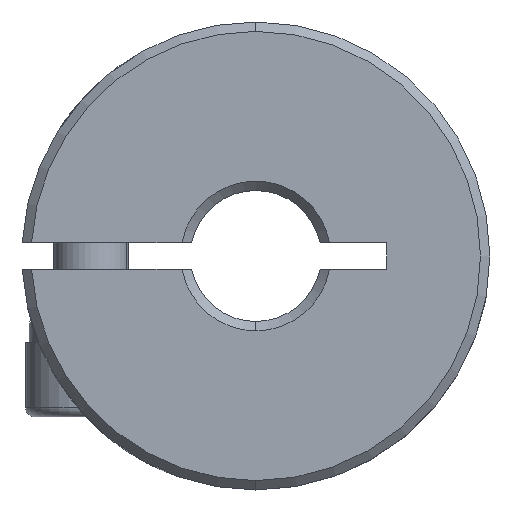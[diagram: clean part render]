
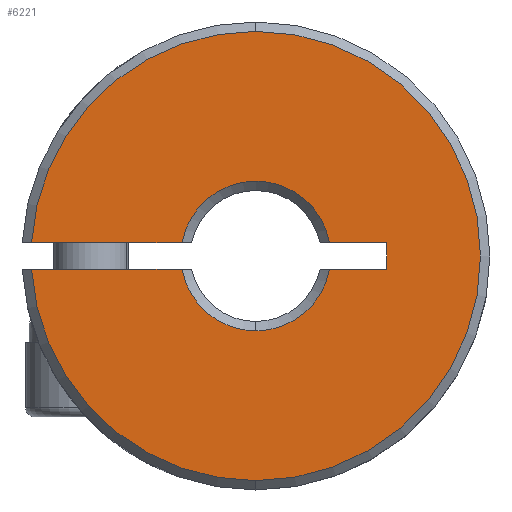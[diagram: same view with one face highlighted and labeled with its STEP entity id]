
A CAD part, front view. The second image highlights one B-rep face of the part: STEP entity #6221.
In plain terms, the highlighted planar face has unit normal (0, -1, 0).
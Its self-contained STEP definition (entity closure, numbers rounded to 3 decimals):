
#20 = AXIS2_PLACEMENT_3D ( 'NONE', #3630, #284, #4590 ) ;
#29 = AXIS2_PLACEMENT_3D ( 'NONE', #4241, #1341, #4716 ) ;
#43 = VERTEX_POINT ( 'NONE', #2971 ) ;
#74 = VECTOR ( 'NONE', #520, 1000. ) ;
#137 = DIRECTION ( 'NONE',  ( 0., -1., 0. ) ) ;
#237 = CARTESIAN_POINT ( 'NONE',  ( 0., 0.25, -12. ) ) ;
#263 = EDGE_CURVE ( 'NONE', #43, #2167, #4797, .T. ) ;
#284 = DIRECTION ( 'NONE',  ( 0., -1., 0. ) ) ;
#343 = VECTOR ( 'NONE', #4923, 1000. ) ;
#438 = DIRECTION ( 'NONE',  ( 0., -1., 0. ) ) ;
#490 = ORIENTED_EDGE ( 'NONE', *, *, #3629, .F. ) ;
#520 = DIRECTION ( 'NONE',  ( -1., 0., 0. ) ) ;
#778 = CARTESIAN_POINT ( 'NONE',  ( 0., 0.25, 12. ) ) ;
#802 = LINE ( 'NONE', #3187, #6119 ) ;
#897 = VERTEX_POINT ( 'NONE', #5147 ) ;
#928 = ORIENTED_EDGE ( 'NONE', *, *, #5864, .T. ) ;
#940 = CARTESIAN_POINT ( 'NONE',  ( 0., 0.25, -4. ) ) ;
#1277 = VERTEX_POINT ( 'NONE', #3044 ) ;
#1341 = DIRECTION ( 'NONE',  ( 0., 1., 0. ) ) ;
#1416 = VERTEX_POINT ( 'NONE', #6136 ) ;
#1637 = CARTESIAN_POINT ( 'NONE',  ( 3.938, 0.25, -0.7 ) ) ;
#1638 = VECTOR ( 'NONE', #1688, 1000. ) ;
#1687 = CIRCLE ( 'NONE', #29, 4. ) ;
#1688 = DIRECTION ( 'NONE',  ( 1., 0., 0. ) ) ;
#1737 = ORIENTED_EDGE ( 'NONE', *, *, #3948, .T. ) ;
#1760 = FACE_OUTER_BOUND ( 'NONE', #2696, .T. ) ;
#1969 = CARTESIAN_POINT ( 'NONE',  ( -12.75, 0.25, 0.7 ) ) ;
#2138 = EDGE_CURVE ( 'NONE', #2167, #4225, #4007, .T. ) ;
#2167 = VERTEX_POINT ( 'NONE', #237 ) ;
#2205 = CARTESIAN_POINT ( 'NONE',  ( -3.938, 0.25, -0.7 ) ) ;
#2276 = CIRCLE ( 'NONE', #4458, 4. ) ;
#2311 = VERTEX_POINT ( 'NONE', #6250 ) ;
#2318 = ORIENTED_EDGE ( 'NONE', *, *, #4292, .F. ) ;
#2384 = DIRECTION ( 'NONE',  ( 0., 1., 0. ) ) ;
#2394 = EDGE_CURVE ( 'NONE', #1416, #1277, #2276, .T. ) ;
#2550 = PLANE ( 'NONE',  #4359 ) ;
#2627 = ORIENTED_EDGE ( 'NONE', *, *, #3941, .F. ) ;
#2643 = AXIS2_PLACEMENT_3D ( 'NONE', #3757, #438, #3307 ) ;
#2696 = EDGE_LOOP ( 'NONE', ( #2318, #928, #1737, #490, #3829, #4657, #3888, #5618, #2997, #2627, #4598 ) ) ;
#2971 = CARTESIAN_POINT ( 'NONE',  ( -11.98, 0.25, -0.7 ) ) ;
#2997 = ORIENTED_EDGE ( 'NONE', *, *, #2394, .T. ) ;
#3044 = CARTESIAN_POINT ( 'NONE',  ( 3.938, 0.25, 0.7 ) ) ;
#3187 = CARTESIAN_POINT ( 'NONE',  ( -12.75, 0.25, -0.7 ) ) ;
#3307 = DIRECTION ( 'NONE',  ( 0., 0., 1. ) ) ;
#3480 = CARTESIAN_POINT ( 'NONE',  ( -12.75, 0.25, 0.7 ) ) ;
#3539 = DIRECTION ( 'NONE',  ( 0., 0., 1. ) ) ;
#3582 = DIRECTION ( 'NONE',  ( 0., 0., 1. ) ) ;
#3629 = EDGE_CURVE ( 'NONE', #43, #5111, #4747, .T. ) ;
#3630 = CARTESIAN_POINT ( 'NONE',  ( 0., 0.25, 0. ) ) ;
#3757 = CARTESIAN_POINT ( 'NONE',  ( 0., 0.25, 0. ) ) ;
#3829 = ORIENTED_EDGE ( 'NONE', *, *, #263, .T. ) ;
#3888 = ORIENTED_EDGE ( 'NONE', *, *, #5897, .T. ) ;
#3910 = VERTEX_POINT ( 'NONE', #940 ) ;
#3941 = EDGE_CURVE ( 'NONE', #2311, #1277, #5962, .T. ) ;
#3948 = EDGE_CURVE ( 'NONE', #3910, #5111, #4740, .T. ) ;
#4007 = CIRCLE ( 'NONE', #20, 12. ) ;
#4046 = CARTESIAN_POINT ( 'NONE',  ( -500., 0.25, -13.609 ) ) ;
#4225 = VERTEX_POINT ( 'NONE', #778 ) ;
#4241 = CARTESIAN_POINT ( 'NONE',  ( 0., 0.25, 0. ) ) ;
#4292 = EDGE_CURVE ( 'NONE', #5060, #897, #802, .T. ) ;
#4320 = CARTESIAN_POINT ( 'NONE',  ( 0., 0.25, 0. ) ) ;
#4359 = AXIS2_PLACEMENT_3D ( 'NONE', #4046, #5976, #3539 ) ;
#4458 = AXIS2_PLACEMENT_3D ( 'NONE', #5952, #4542, #3582 ) ;
#4542 = DIRECTION ( 'NONE',  ( 0., 1., 0. ) ) ;
#4567 = DIRECTION ( 'NONE',  ( 0., 0., 1. ) ) ;
#4575 = DIRECTION ( 'NONE',  ( 0., 0., 1. ) ) ;
#4590 = DIRECTION ( 'NONE',  ( 0., 0., 1. ) ) ;
#4598 = ORIENTED_EDGE ( 'NONE', *, *, #5720, .F. ) ;
#4644 = DIRECTION ( 'NONE',  ( 1., 0., 0. ) ) ;
#4657 = ORIENTED_EDGE ( 'NONE', *, *, #2138, .T. ) ;
#4716 = DIRECTION ( 'NONE',  ( 0., 0., 1. ) ) ;
#4740 = CIRCLE ( 'NONE', #4990, 4. ) ;
#4747 = LINE ( 'NONE', #5639, #1638 ) ;
#4757 = VERTEX_POINT ( 'NONE', #5116 ) ;
#4782 = DIRECTION ( 'NONE',  ( 0., 0., 1. ) ) ;
#4784 = AXIS2_PLACEMENT_3D ( 'NONE', #6016, #137, #4575 ) ;
#4797 = CIRCLE ( 'NONE', #4784, 12. ) ;
#4923 = DIRECTION ( 'NONE',  ( -1., 0., 0. ) ) ;
#4990 = AXIS2_PLACEMENT_3D ( 'NONE', #4320, #2384, #4782 ) ;
#5060 = VERTEX_POINT ( 'NONE', #1637 ) ;
#5096 = CIRCLE ( 'NONE', #2643, 12. ) ;
#5111 = VERTEX_POINT ( 'NONE', #2205 ) ;
#5116 = CARTESIAN_POINT ( 'NONE',  ( -11.98, 0.25, 0.7 ) ) ;
#5147 = CARTESIAN_POINT ( 'NONE',  ( 7., 0.25, -0.7 ) ) ;
#5408 = LINE ( 'NONE', #1969, #74 ) ;
#5554 = CARTESIAN_POINT ( 'NONE',  ( 7., 0.25, 0.7 ) ) ;
#5618 = ORIENTED_EDGE ( 'NONE', *, *, #6064, .F. ) ;
#5639 = CARTESIAN_POINT ( 'NONE',  ( -12.75, 0.25, -0.7 ) ) ;
#5644 = VECTOR ( 'NONE', #4567, 1000. ) ;
#5720 = EDGE_CURVE ( 'NONE', #897, #2311, #6184, .T. ) ;
#5864 = EDGE_CURVE ( 'NONE', #5060, #3910, #1687, .T. ) ;
#5897 = EDGE_CURVE ( 'NONE', #4225, #4757, #5096, .T. ) ;
#5952 = CARTESIAN_POINT ( 'NONE',  ( 0., 0.25, 0. ) ) ;
#5962 = LINE ( 'NONE', #3480, #343 ) ;
#5976 = DIRECTION ( 'NONE',  ( 0., 1., 0. ) ) ;
#6016 = CARTESIAN_POINT ( 'NONE',  ( 0., 0.25, 0. ) ) ;
#6064 = EDGE_CURVE ( 'NONE', #1416, #4757, #5408, .T. ) ;
#6119 = VECTOR ( 'NONE', #4644, 1000. ) ;
#6136 = CARTESIAN_POINT ( 'NONE',  ( -3.938, 0.25, 0.7 ) ) ;
#6184 = LINE ( 'NONE', #5554, #5644 ) ;
#6221 = ADVANCED_FACE ( 'NONE', ( #1760 ), #2550, .F. ) ;
#6250 = CARTESIAN_POINT ( 'NONE',  ( 7., 0.25, 0.7 ) ) ;
